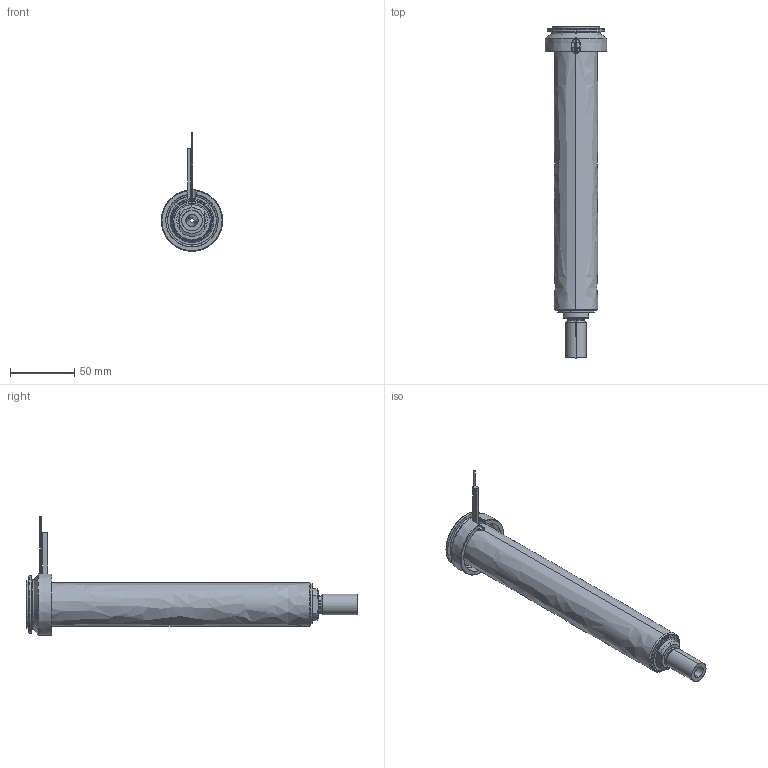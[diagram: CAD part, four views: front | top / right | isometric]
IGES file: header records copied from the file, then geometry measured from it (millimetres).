
Start section: SolidWorks IGES file using analytic representation for surfaces
Global section: file name: C:\Documents and Settings\ws-20\Desktop\TEMPORANEA\UGBE5005-M-A-P-5 [Ød-3.5 P-25 ØC-13].IGS; native system: SolidWorks 2012; preprocessor: SolidWorks 2012; author: ws-20; date: 120306.162927; units: millimetre
Bounding box: 48 x 259.25 x 92.62 mm (x, y, z)
Surface area: 88899.7 mm2 (no closed solid volume)
Topology: 0 solids, 0 shells, 109 faces, 2044 edges, 2044 vertices
Faces by surface type: revolution 62, bspline 47
